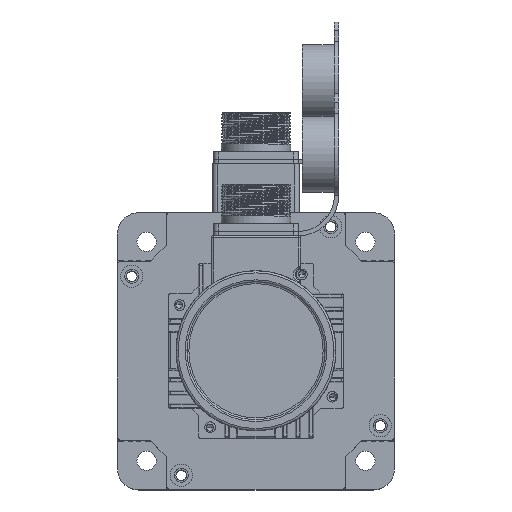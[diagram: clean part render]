
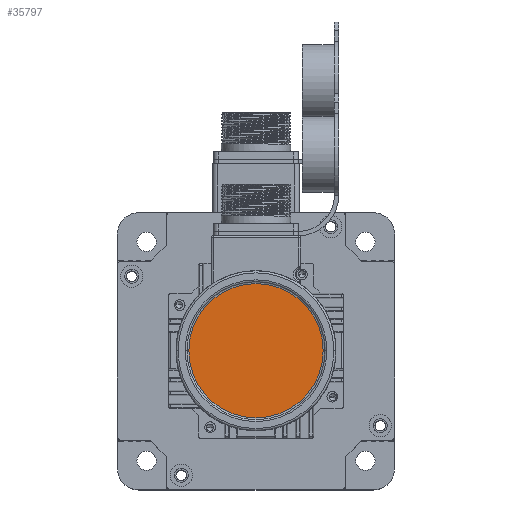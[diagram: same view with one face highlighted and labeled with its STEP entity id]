
A CAD part, top view. The second image highlights one B-rep face of the part: STEP entity #35797.
In plain terms, the highlighted planar face has unit normal (0, 0, 1) as drawn and (0, 0, -1) by its records, which use the part's own axes.
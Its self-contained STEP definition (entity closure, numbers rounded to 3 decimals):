
#774 = ORIENTED_EDGE ( 'NONE', *, *, #19561, .T. ) ;
#4161 = FACE_OUTER_BOUND ( 'NONE', #39475, .T. ) ;
#8115 = CARTESIAN_POINT ( 'NONE',  ( 0., 0., -41.5 ) ) ;
#10444 = DIRECTION ( 'NONE',  ( 0., 0., -1. ) ) ;
#11122 = AXIS2_PLACEMENT_3D ( 'NONE', #31271, #10444, #34811 ) ;
#11621 = DIRECTION ( 'NONE',  ( -1., 0., 0. ) ) ;
#14783 = ORIENTED_EDGE ( 'NONE', *, *, #39018, .T. ) ;
#15410 = CIRCLE ( 'NONE', #24892, 31.5 ) ;
#19489 = CARTESIAN_POINT ( 'NONE',  ( 0., 0., -41.5 ) ) ;
#19561 = EDGE_CURVE ( 'NONE', #33963, #32273, #39320, .T. ) ;
#19657 = AXIS2_PLACEMENT_3D ( 'NONE', #19489, #43931, #22982 ) ;
#22982 = DIRECTION ( 'NONE',  ( -1., 0., 0. ) ) ;
#24892 = AXIS2_PLACEMENT_3D ( 'NONE', #8115, #32483, #11621 ) ;
#31271 = CARTESIAN_POINT ( 'NONE',  ( 0., 0., -41.5 ) ) ;
#31967 = CARTESIAN_POINT ( 'NONE',  ( 31.5, 0., -41.5 ) ) ;
#32273 = VERTEX_POINT ( 'NONE', #31967 ) ;
#32483 = DIRECTION ( 'NONE',  ( 0., 0., -1. ) ) ;
#33963 = VERTEX_POINT ( 'NONE', #42678 ) ;
#34811 = DIRECTION ( 'NONE',  ( -1., 0., 0. ) ) ;
#35797 = ADVANCED_FACE ( 'NONE', ( #4161 ), #41662, .T. ) ;
#39018 = EDGE_CURVE ( 'NONE', #32273, #33963, #15410, .T. ) ;
#39320 = CIRCLE ( 'NONE', #19657, 31.5 ) ;
#39475 = EDGE_LOOP ( 'NONE', ( #774, #14783 ) ) ;
#41662 = PLANE ( 'NONE',  #11122 ) ;
#42678 = CARTESIAN_POINT ( 'NONE',  ( -31.5, 0., -41.5 ) ) ;
#43931 = DIRECTION ( 'NONE',  ( 0., 0., -1. ) ) ;
